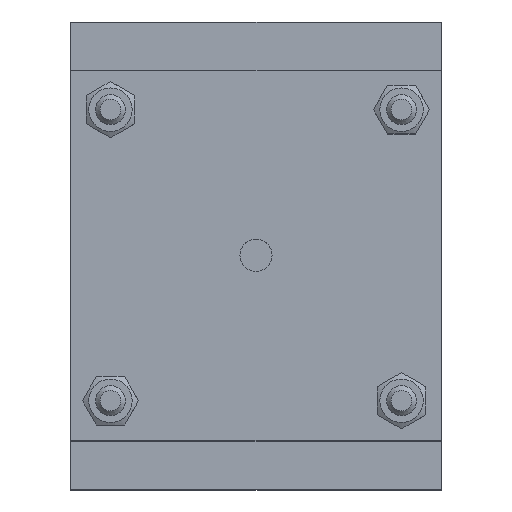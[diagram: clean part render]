
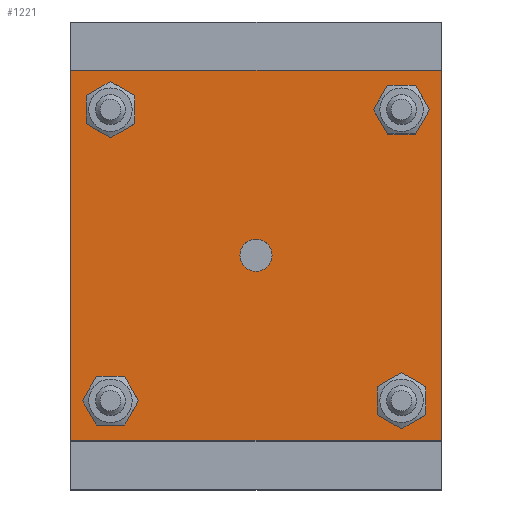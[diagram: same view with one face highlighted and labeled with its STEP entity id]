
A CAD part, top view. The second image highlights one B-rep face of the part: STEP entity #1221.
In plain terms, the highlighted planar face has unit normal (0, 0, 1).
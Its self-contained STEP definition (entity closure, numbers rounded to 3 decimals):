
#936=CARTESIAN_POINT('',(4.283,0.0,8.0));
#937=VERTEX_POINT('',#936);
#938=CARTESIAN_POINT('',(0.0,0.0,8.0));
#939=DIRECTION('',(0.0,0.0,-1.0));
#940=DIRECTION('',(1.0,0.0,0.0));
#941=AXIS2_PLACEMENT_3D('',#938,#939,#940);
#942=CIRCLE('',#941,4.283);
#943=EDGE_CURVE('',#937,#937,#942,.T.);
#975=CARTESIAN_POINT('',(43.391,-38.891,8.0));
#976=VERTEX_POINT('',#975);
#977=CARTESIAN_POINT('',(38.891,-38.891,8.));
#978=DIRECTION('',(0.0,0.0,-1.0));
#979=DIRECTION('',(1.0,0.0,0.0));
#980=AXIS2_PLACEMENT_3D('',#977,#978,#979);
#981=CIRCLE('',#980,4.5);
#982=EDGE_CURVE('',#976,#976,#981,.T.);
#1003=CARTESIAN_POINT('',(-34.391,-38.891,8.0));
#1004=VERTEX_POINT('',#1003);
#1005=CARTESIAN_POINT('',(-38.891,-38.891,8.));
#1006=DIRECTION('',(0.0,0.0,-1.0));
#1007=DIRECTION('',(1.0,0.0,0.0));
#1008=AXIS2_PLACEMENT_3D('',#1005,#1006,#1007);
#1009=CIRCLE('',#1008,4.5);
#1010=EDGE_CURVE('',#1004,#1004,#1009,.T.);
#1031=CARTESIAN_POINT('',(-34.391,38.891,8.0));
#1032=VERTEX_POINT('',#1031);
#1033=CARTESIAN_POINT('',(-38.891,38.891,8.));
#1034=DIRECTION('',(0.0,0.0,-1.0));
#1035=DIRECTION('',(1.0,0.0,0.0));
#1036=AXIS2_PLACEMENT_3D('',#1033,#1034,#1035);
#1037=CIRCLE('',#1036,4.5);
#1038=EDGE_CURVE('',#1032,#1032,#1037,.T.);
#1059=CARTESIAN_POINT('',(43.391,38.891,8.0));
#1060=VERTEX_POINT('',#1059);
#1061=CARTESIAN_POINT('',(38.891,38.891,8.));
#1062=DIRECTION('',(0.0,0.0,-1.0));
#1063=DIRECTION('',(1.0,0.0,0.0));
#1064=AXIS2_PLACEMENT_3D('',#1061,#1062,#1063);
#1065=CIRCLE('',#1064,4.5);
#1066=EDGE_CURVE('',#1060,#1060,#1065,.T.);
#1076=CARTESIAN_POINT('',(49.5,49.5,8.0));
#1077=VERTEX_POINT('',#1076);
#1078=CARTESIAN_POINT('',(49.5,-49.5,8.0));
#1079=VERTEX_POINT('',#1078);
#1080=CARTESIAN_POINT('',(49.5,49.5,8.0));
#1081=DIRECTION('',(0.0,-1.0,0.0));
#1082=VECTOR('',#1081,99.);
#1083=LINE('',#1080,#1082);
#1084=EDGE_CURVE('',#1077,#1079,#1083,.T.);
#1116=CARTESIAN_POINT('',(-49.5,-49.5,8.0));
#1117=VERTEX_POINT('',#1116);
#1118=CARTESIAN_POINT('',(49.5,-49.5,8.0));
#1119=DIRECTION('',(-1.0,0.0,0.0));
#1120=VECTOR('',#1119,99.);
#1121=LINE('',#1118,#1120);
#1122=EDGE_CURVE('',#1079,#1117,#1121,.T.);
#1147=CARTESIAN_POINT('',(-49.5,49.5,8.0));
#1148=VERTEX_POINT('',#1147);
#1149=CARTESIAN_POINT('',(-49.5,-49.5,8.0));
#1150=DIRECTION('',(0.0,1.0,0.0));
#1151=VECTOR('',#1150,99.);
#1152=LINE('',#1149,#1151);
#1153=EDGE_CURVE('',#1117,#1148,#1152,.T.);
#1178=CARTESIAN_POINT('',(-49.5,49.5,8.0));
#1179=DIRECTION('',(1.0,0.0,0.0));
#1180=VECTOR('',#1179,99.0);
#1181=LINE('',#1178,#1180);
#1182=EDGE_CURVE('',#1148,#1077,#1181,.T.);
#1195=CARTESIAN_POINT('',(0.,0.,8.0));
#1196=DIRECTION('',(0.0,0.0,1.0));
#1197=DIRECTION('',(1.0,0.0,0.0));
#1198=AXIS2_PLACEMENT_3D('',#1195,#1196,#1197);
#1199=PLANE('',#1198);
#1200=ORIENTED_EDGE('',*,*,#1084,.F.);
#1201=ORIENTED_EDGE('',*,*,#1182,.F.);
#1202=ORIENTED_EDGE('',*,*,#1153,.F.);
#1203=ORIENTED_EDGE('',*,*,#1122,.F.);
#1204=EDGE_LOOP('',(#1200,#1201,#1202,#1203));
#1205=FACE_OUTER_BOUND('',#1204,.T.);
#1206=ORIENTED_EDGE('',*,*,#943,.T.);
#1207=EDGE_LOOP('',(#1206));
#1208=FACE_BOUND('',#1207,.T.);
#1209=ORIENTED_EDGE('',*,*,#982,.T.);
#1210=EDGE_LOOP('',(#1209));
#1211=FACE_BOUND('',#1210,.T.);
#1212=ORIENTED_EDGE('',*,*,#1010,.T.);
#1213=EDGE_LOOP('',(#1212));
#1214=FACE_BOUND('',#1213,.T.);
#1215=ORIENTED_EDGE('',*,*,#1038,.T.);
#1216=EDGE_LOOP('',(#1215));
#1217=FACE_BOUND('',#1216,.T.);
#1218=ORIENTED_EDGE('',*,*,#1066,.T.);
#1219=EDGE_LOOP('',(#1218));
#1220=FACE_BOUND('',#1219,.T.);
#1221=ADVANCED_FACE('',(#1205,#1208,#1211,#1214,#1217,#1220),#1199,.T.);
